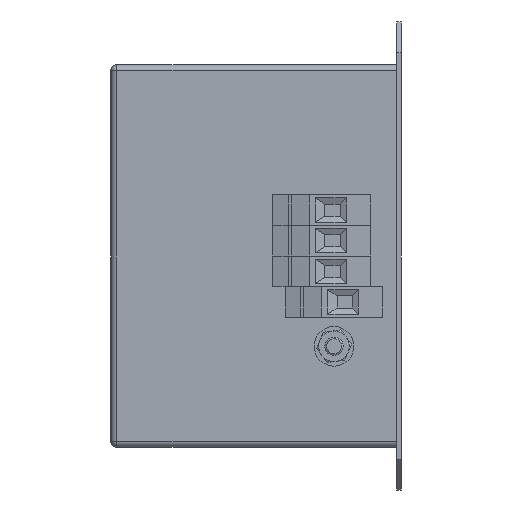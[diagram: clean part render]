
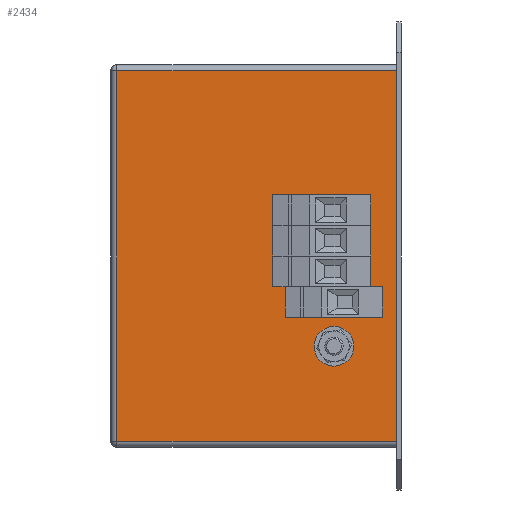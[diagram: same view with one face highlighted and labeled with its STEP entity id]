
A CAD part, left-side view. The second image highlights one B-rep face of the part: STEP entity #2434.
In plain terms, the highlighted planar face has unit normal (-1, 0, 0).
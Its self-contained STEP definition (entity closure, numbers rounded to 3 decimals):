
#16 = DIRECTION ( 'NONE',  ( 0., 0., -1. ) ) ;
#51 = FACE_BOUND ( 'NONE', #422, .T. ) ;
#145 = DIRECTION ( 'NONE',  ( 0., 0., 1. ) ) ;
#148 = ORIENTED_EDGE ( 'NONE', *, *, #7772, .T. ) ;
#214 = ORIENTED_EDGE ( 'NONE', *, *, #8151, .T. ) ;
#327 = LINE ( 'NONE', #4562, #7431 ) ;
#399 = VERTEX_POINT ( 'NONE', #8653 ) ;
#422 = EDGE_LOOP ( 'NONE', ( #6735, #7756 ) ) ;
#439 = DIRECTION ( 'NONE',  ( 0., 0., -1. ) ) ;
#680 = EDGE_CURVE ( 'NONE', #3132, #2327, #3941, .T. ) ;
#744 = VERTEX_POINT ( 'NONE', #7440 ) ;
#792 = DIRECTION ( 'NONE',  ( 1., 0., 0. ) ) ;
#905 = LINE ( 'NONE', #8406, #8741 ) ;
#950 = AXIS2_PLACEMENT_3D ( 'NONE', #5693, #7854, #1651 ) ;
#1083 = VECTOR ( 'NONE', #2746, 1000. ) ;
#1141 = VERTEX_POINT ( 'NONE', #3843 ) ;
#1173 = DIRECTION ( 'NONE',  ( 1., 0., 0. ) ) ;
#1176 = CIRCLE ( 'NONE', #5580, 4.05 ) ;
#1181 = CIRCLE ( 'NONE', #2199, 4.05 ) ;
#1192 = EDGE_LOOP ( 'NONE', ( #7624, #2742 ) ) ;
#1198 = CARTESIAN_POINT ( 'NONE',  ( 0., 22., -106. ) ) ;
#1289 = DIRECTION ( 'NONE',  ( 0., 0., -1. ) ) ;
#1313 = CARTESIAN_POINT ( 'NONE',  ( 0., 95., -137. ) ) ;
#1364 = CARTESIAN_POINT ( 'NONE',  ( 0., 22., -109. ) ) ;
#1641 = CARTESIAN_POINT ( 'NONE',  ( 0., 26., -65.55 ) ) ;
#1649 = EDGE_CURVE ( 'NONE', #4304, #1929, #2319, .T. ) ;
#1651 = DIRECTION ( 'NONE',  ( 0., 0., -1. ) ) ;
#1848 = CARTESIAN_POINT ( 'NONE',  ( 0., 22., -87.45 ) ) ;
#1864 = CARTESIAN_POINT ( 'NONE',  ( 0., 93., -137. ) ) ;
#1882 = AXIS2_PLACEMENT_3D ( 'NONE', #2408, #4506, #439 ) ;
#1929 = VERTEX_POINT ( 'NONE', #1848 ) ;
#1935 = CARTESIAN_POINT ( 'NONE',  ( 0., 26., -81.5 ) ) ;
#1951 = CARTESIAN_POINT ( 'NONE',  ( 0., 26., -85.55 ) ) ;
#2199 = AXIS2_PLACEMENT_3D ( 'NONE', #2247, #3597, #7062 ) ;
#2247 = CARTESIAN_POINT ( 'NONE',  ( 0., 26., -61.5 ) ) ;
#2319 = CIRCLE ( 'NONE', #7917, 4.05 ) ;
#2327 = VERTEX_POINT ( 'NONE', #6568 ) ;
#2408 = CARTESIAN_POINT ( 'NONE',  ( 0., 22., -91.5 ) ) ;
#2434 = ADVANCED_FACE ( 'NONE', ( #6402, #5022, #51, #5866, #7159, #6827 ), #4676, .F. ) ;
#2520 = AXIS2_PLACEMENT_3D ( 'NONE', #3346, #3256, #3320 ) ;
#2682 = LINE ( 'NONE', #1313, #1083 ) ;
#2715 = CARTESIAN_POINT ( 'NONE',  ( 0., 95., -16. ) ) ;
#2742 = ORIENTED_EDGE ( 'NONE', *, *, #7712, .T. ) ;
#2744 = EDGE_LOOP ( 'NONE', ( #4828, #8315 ) ) ;
#2746 = DIRECTION ( 'NONE',  ( 0., -1., 0. ) ) ;
#2760 = CARTESIAN_POINT ( 'NONE',  ( 0., 22., -95.55 ) ) ;
#2889 = CIRCLE ( 'NONE', #6371, 3. ) ;
#2936 = AXIS2_PLACEMENT_3D ( 'NONE', #4755, #5427, #4840 ) ;
#3132 = VERTEX_POINT ( 'NONE', #1951 ) ;
#3159 = CIRCLE ( 'NONE', #2936, 3. ) ;
#3256 = DIRECTION ( 'NONE',  ( 1., 0., 0. ) ) ;
#3320 = DIRECTION ( 'NONE',  ( 0., 0., -1. ) ) ;
#3346 = CARTESIAN_POINT ( 'NONE',  ( 0., 26., -81.5 ) ) ;
#3360 = DIRECTION ( 'NONE',  ( 1., 0., 0. ) ) ;
#3597 = DIRECTION ( 'NONE',  ( 1., 0., 0. ) ) ;
#3661 = CIRCLE ( 'NONE', #1882, 4.05 ) ;
#3749 = AXIS2_PLACEMENT_3D ( 'NONE', #4128, #6809, #16 ) ;
#3752 = EDGE_CURVE ( 'NONE', #5738, #399, #5876, .T. ) ;
#3763 = VERTEX_POINT ( 'NONE', #7137 ) ;
#3843 = CARTESIAN_POINT ( 'NONE',  ( 0., 26., -75.55 ) ) ;
#3932 = CARTESIAN_POINT ( 'NONE',  ( 0., 95., -139. ) ) ;
#3934 = EDGE_LOOP ( 'NONE', ( #5984, #8423 ) ) ;
#3941 = CIRCLE ( 'NONE', #5218, 4.05 ) ;
#3988 = EDGE_LOOP ( 'NONE', ( #7149, #5756 ) ) ;
#4017 = CIRCLE ( 'NONE', #2520, 4.05 ) ;
#4023 = DIRECTION ( 'NONE',  ( 0., 0., -1. ) ) ;
#4128 = CARTESIAN_POINT ( 'NONE',  ( 0., 26., -71.5 ) ) ;
#4304 = VERTEX_POINT ( 'NONE', #2760 ) ;
#4506 = DIRECTION ( 'NONE',  ( 1., 0., 0. ) ) ;
#4562 = CARTESIAN_POINT ( 'NONE',  ( 0., 93., -139. ) ) ;
#4676 = PLANE ( 'NONE',  #7985 ) ;
#4755 = CARTESIAN_POINT ( 'NONE',  ( 0., 22., -106. ) ) ;
#4770 = EDGE_CURVE ( 'NONE', #2327, #3132, #4017, .T. ) ;
#4828 = ORIENTED_EDGE ( 'NONE', *, *, #5961, .T. ) ;
#4832 = EDGE_CURVE ( 'NONE', #7433, #7647, #3159, .T. ) ;
#4838 = CARTESIAN_POINT ( 'NONE',  ( 0., 1.5, -16. ) ) ;
#4840 = DIRECTION ( 'NONE',  ( 0., 0., -1. ) ) ;
#4856 = LINE ( 'NONE', #2715, #8612 ) ;
#5022 = FACE_BOUND ( 'NONE', #3934, .T. ) ;
#5029 = EDGE_CURVE ( 'NONE', #3763, #7350, #905, .T. ) ;
#5218 = AXIS2_PLACEMENT_3D ( 'NONE', #1935, #1173, #4023 ) ;
#5412 = CARTESIAN_POINT ( 'NONE',  ( 0., 26., -71.5 ) ) ;
#5427 = DIRECTION ( 'NONE',  ( 1., 0., 0. ) ) ;
#5527 = EDGE_LOOP ( 'NONE', ( #214, #148, #6687, #5983 ) ) ;
#5580 = AXIS2_PLACEMENT_3D ( 'NONE', #5412, #6099, #6161 ) ;
#5693 = CARTESIAN_POINT ( 'NONE',  ( 0., 26., -61.5 ) ) ;
#5738 = VERTEX_POINT ( 'NONE', #1641 ) ;
#5756 = ORIENTED_EDGE ( 'NONE', *, *, #4770, .T. ) ;
#5866 = FACE_BOUND ( 'NONE', #3988, .T. ) ;
#5876 = CIRCLE ( 'NONE', #950, 4.05 ) ;
#5961 = EDGE_CURVE ( 'NONE', #7647, #7433, #2889, .T. ) ;
#5983 = ORIENTED_EDGE ( 'NONE', *, *, #7821, .T. ) ;
#5984 = ORIENTED_EDGE ( 'NONE', *, *, #1649, .T. ) ;
#6099 = DIRECTION ( 'NONE',  ( 1., 0., 0. ) ) ;
#6161 = DIRECTION ( 'NONE',  ( 0., 0., -1. ) ) ;
#6248 = CARTESIAN_POINT ( 'NONE',  ( 0., 22., -103. ) ) ;
#6354 = VERTEX_POINT ( 'NONE', #7630 ) ;
#6371 = AXIS2_PLACEMENT_3D ( 'NONE', #1198, #3360, #8111 ) ;
#6402 = FACE_BOUND ( 'NONE', #2744, .T. ) ;
#6568 = CARTESIAN_POINT ( 'NONE',  ( 0., 26., -77.45 ) ) ;
#6687 = ORIENTED_EDGE ( 'NONE', *, *, #5029, .T. ) ;
#6735 = ORIENTED_EDGE ( 'NONE', *, *, #3752, .T. ) ;
#6809 = DIRECTION ( 'NONE',  ( 1., 0., 0. ) ) ;
#6827 = FACE_OUTER_BOUND ( 'NONE', #5527, .T. ) ;
#6892 = DIRECTION ( 'NONE',  ( 0., 1., 0. ) ) ;
#7004 = CARTESIAN_POINT ( 'NONE',  ( 0., 22., -91.5 ) ) ;
#7062 = DIRECTION ( 'NONE',  ( 0., 0., -1. ) ) ;
#7137 = CARTESIAN_POINT ( 'NONE',  ( 0., 1.5, -137. ) ) ;
#7149 = ORIENTED_EDGE ( 'NONE', *, *, #680, .T. ) ;
#7159 = FACE_BOUND ( 'NONE', #1192, .T. ) ;
#7333 = CIRCLE ( 'NONE', #3749, 4.05 ) ;
#7339 = EDGE_CURVE ( 'NONE', #1141, #6354, #7333, .T. ) ;
#7350 = VERTEX_POINT ( 'NONE', #4838 ) ;
#7431 = VECTOR ( 'NONE', #8004, 1000. ) ;
#7433 = VERTEX_POINT ( 'NONE', #6248 ) ;
#7440 = CARTESIAN_POINT ( 'NONE',  ( 0., 93., -16. ) ) ;
#7531 = EDGE_CURVE ( 'NONE', #399, #5738, #1181, .T. ) ;
#7624 = ORIENTED_EDGE ( 'NONE', *, *, #7339, .T. ) ;
#7630 = CARTESIAN_POINT ( 'NONE',  ( 0., 26., -67.45 ) ) ;
#7647 = VERTEX_POINT ( 'NONE', #1364 ) ;
#7668 = DIRECTION ( 'NONE',  ( 0., 0., -1. ) ) ;
#7712 = EDGE_CURVE ( 'NONE', #6354, #1141, #1176, .T. ) ;
#7756 = ORIENTED_EDGE ( 'NONE', *, *, #7531, .T. ) ;
#7772 = EDGE_CURVE ( 'NONE', #7992, #3763, #2682, .T. ) ;
#7821 = EDGE_CURVE ( 'NONE', #7350, #744, #4856, .T. ) ;
#7854 = DIRECTION ( 'NONE',  ( 1., 0., 0. ) ) ;
#7917 = AXIS2_PLACEMENT_3D ( 'NONE', #7004, #792, #7668 ) ;
#7985 = AXIS2_PLACEMENT_3D ( 'NONE', #3932, #8137, #1289 ) ;
#7992 = VERTEX_POINT ( 'NONE', #1864 ) ;
#8004 = DIRECTION ( 'NONE',  ( 0., 0., -1. ) ) ;
#8111 = DIRECTION ( 'NONE',  ( 0., 0., -1. ) ) ;
#8134 = EDGE_CURVE ( 'NONE', #1929, #4304, #3661, .T. ) ;
#8137 = DIRECTION ( 'NONE',  ( 1., 0., 0. ) ) ;
#8151 = EDGE_CURVE ( 'NONE', #744, #7992, #327, .T. ) ;
#8315 = ORIENTED_EDGE ( 'NONE', *, *, #4832, .T. ) ;
#8406 = CARTESIAN_POINT ( 'NONE',  ( 0., 1.5, -139. ) ) ;
#8423 = ORIENTED_EDGE ( 'NONE', *, *, #8134, .T. ) ;
#8612 = VECTOR ( 'NONE', #6892, 1000. ) ;
#8653 = CARTESIAN_POINT ( 'NONE',  ( 0., 26., -57.45 ) ) ;
#8741 = VECTOR ( 'NONE', #145, 1000. ) ;
